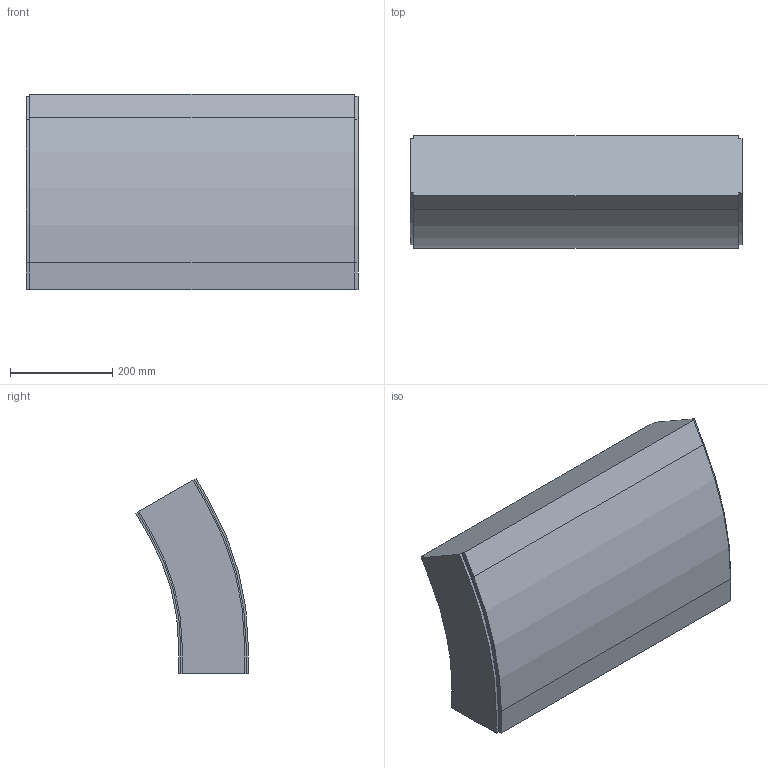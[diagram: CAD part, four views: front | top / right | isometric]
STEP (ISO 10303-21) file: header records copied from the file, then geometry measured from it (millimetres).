
FILE_DESCRIPTION (( 'STEP AP214' ), '1' );
FILE_NAME ('FS-MTC2-150-INOX verticaalbocht.650 30°.STEP', '2017-02-08T12:42:38', ( '' ), ( '' ), 'SwSTEP 2.0', 'SolidWorks 2016', '' );
FILE_SCHEMA (( 'AUTOMOTIVE_DESIGN' ));
Length unit declared in the file: millimetre
Products named in the file (1): FS-MTC2-150-INOX verticaalbocht.650 30°
Bounding box: 650.5 x 220.59 x 382.09 mm (x, y, z)
Volume: 32497417.1 mm3; surface area: 754536.7 mm2
Topology: 1 solids, 1 shells, 42 faces, 120 edges, 80 vertices
Faces by surface type: plane 32, cylinder 10
Entity records: 1398 total; most frequent: CARTESIAN_POINT 243, ORIENTED_EDGE 240, DIRECTION 226, EDGE_CURVE 120, VECTOR 100, LINE 100, VERTEX_POINT 80, AXIS2_PLACEMENT_3D 63
